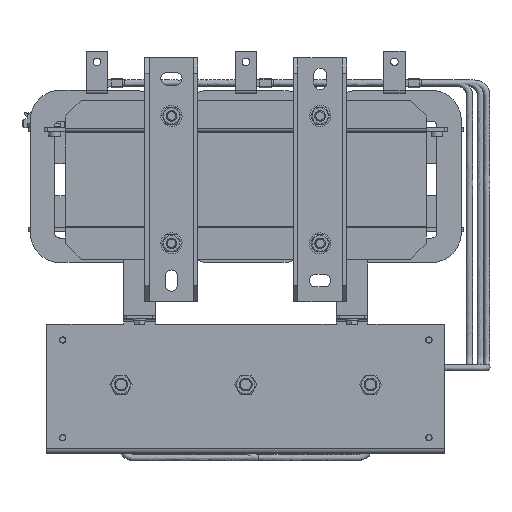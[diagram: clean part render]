
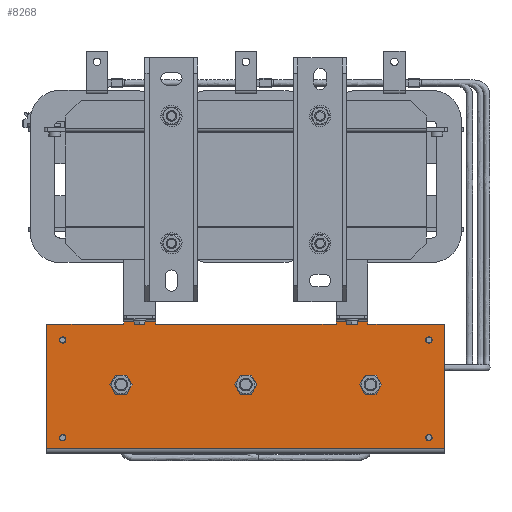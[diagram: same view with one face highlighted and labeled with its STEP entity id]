
A CAD part, front view. The second image highlights one B-rep face of the part: STEP entity #8268.
In plain terms, the highlighted planar face has unit normal (0, -1, 0).
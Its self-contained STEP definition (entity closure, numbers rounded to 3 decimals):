
#8268=ADVANCED_FACE('',(#18733,#18735,#18737,#18739,#18741,#18743,#18745),#18747,
.F.);
#18733=FACE_BOUND('',#18734,.T.);
#18734=EDGE_LOOP('',(#31617,#31618,#31619,#31620,#31621,#31622,#31623,#31624,#31625,
#31626,#31627,#31628));
#18735=FACE_BOUND('',#18736,.T.);
#18736=EDGE_LOOP('',(#31629));
#18737=FACE_BOUND('',#18738,.T.);
#18738=EDGE_LOOP('',(#31630));
#18739=FACE_BOUND('',#18740,.T.);
#18740=EDGE_LOOP('',(#31631));
#18741=FACE_BOUND('',#18742,.T.);
#18742=EDGE_LOOP('',(#31632));
#18743=FACE_BOUND('',#18744,.T.);
#18744=EDGE_LOOP('',(#31633));
#18745=FACE_BOUND('',#18746,.T.);
#18746=EDGE_LOOP('',(#31634));
#18747=PLANE('',#18748);
#18748=AXIS2_PLACEMENT_3D('',#18749,#18750,#18751);
#18749=CARTESIAN_POINT('',(-124.,-50.,187.5));
#18750=DIRECTION('',(0.,1.,0.));
#18751=DIRECTION('',(0.,0.,1.));
#31617=ORIENTED_EDGE('',*,*,#36974,.T.);
#31618=ORIENTED_EDGE('',*,*,#36975,.T.);
#31619=ORIENTED_EDGE('',*,*,#36976,.T.);
#31620=ORIENTED_EDGE('',*,*,#36977,.F.);
#31621=ORIENTED_EDGE('',*,*,#36978,.T.);
#31622=ORIENTED_EDGE('',*,*,#36979,.T.);
#31623=ORIENTED_EDGE('',*,*,#36980,.T.);
#31624=ORIENTED_EDGE('',*,*,#36981,.F.);
#31625=ORIENTED_EDGE('',*,*,#36907,.T.);
#31626=ORIENTED_EDGE('',*,*,#36982,.T.);
#31627=ORIENTED_EDGE('',*,*,#36893,.F.);
#31628=ORIENTED_EDGE('',*,*,#36983,.F.);
#31629=ORIENTED_EDGE('',*,*,#36834,.T.);
#31630=ORIENTED_EDGE('',*,*,#36836,.T.);
#31631=ORIENTED_EDGE('',*,*,#36838,.T.);
#31632=ORIENTED_EDGE('',*,*,#36840,.T.);
#31633=ORIENTED_EDGE('',*,*,#36842,.T.);
#31634=ORIENTED_EDGE('',*,*,#36844,.T.);
#36834=EDGE_CURVE('',#39871,#39871,#39872,.T.);
#36836=EDGE_CURVE('',#39875,#39875,#39876,.T.);
#36838=EDGE_CURVE('',#39879,#39879,#39880,.T.);
#36840=EDGE_CURVE('',#39883,#39883,#39884,.T.);
#36842=EDGE_CURVE('',#39887,#39887,#39888,.T.);
#36844=EDGE_CURVE('',#39891,#39891,#39892,.T.);
#36893=EDGE_CURVE('',#39983,#39984,#39985,.T.);
#36907=EDGE_CURVE('',#40012,#40010,#40013,.T.);
#36974=EDGE_CURVE('',#40130,#40131,#40132,.T.);
#36975=EDGE_CURVE('',#40131,#40133,#40134,.T.);
#36976=EDGE_CURVE('',#40133,#40135,#40136,.T.);
#36977=EDGE_CURVE('',#40137,#40135,#40138,.T.);
#36978=EDGE_CURVE('',#40137,#40139,#40140,.T.);
#36979=EDGE_CURVE('',#40139,#40141,#40142,.T.);
#36980=EDGE_CURVE('',#40141,#40143,#40144,.T.);
#36981=EDGE_CURVE('',#40012,#40143,#40145,.T.);
#36982=EDGE_CURVE('',#40010,#39984,#40146,.T.);
#36983=EDGE_CURVE('',#40130,#39983,#40147,.T.);
#39871=VERTEX_POINT('',#46268);
#39872=CIRCLE('',#46269,3.);
#39875=VERTEX_POINT('',#46278);
#39876=CIRCLE('',#46279,3.);
#39879=VERTEX_POINT('',#46288);
#39880=CIRCLE('',#46289,3.);
#39883=VERTEX_POINT('',#46298);
#39884=CIRCLE('',#46299,3.);
#39887=VERTEX_POINT('',#46308);
#39888=CIRCLE('',#46309,7.);
#39891=VERTEX_POINT('',#46318);
#39892=CIRCLE('',#46319,7.);
#39983=VERTEX_POINT('',#46529);
#39984=VERTEX_POINT('',#46530);
#39985=LINE('',#46531,#46532);
#40010=VERTEX_POINT('',#46586);
#40012=VERTEX_POINT('',#46591);
#40013=LINE('',#46592,#46593);
#40130=VERTEX_POINT('',#46857);
#40131=VERTEX_POINT('',#46858);
#40132=LINE('',#46859,#46860);
#40133=VERTEX_POINT('',#46862);
#40134=LINE('',#46863,#46864);
#40135=VERTEX_POINT('',#46866);
#40136=LINE('',#46867,#46868);
#40137=VERTEX_POINT('',#46870);
#40138=LINE('',#46871,#46872);
#40139=VERTEX_POINT('',#46874);
#40140=LINE('',#46875,#46876);
#40141=VERTEX_POINT('',#46878);
#40142=LINE('',#46879,#46880);
#40143=VERTEX_POINT('',#46882);
#40144=LINE('',#46883,#46884);
#40145=LINE('',#46886,#46887);
#40146=LINE('',#46889,#46890);
#40147=LINE('',#46892,#46893);
#46268=CARTESIAN_POINT('',(-15.,-50.,-172.5));
#46269=AXIS2_PLACEMENT_3D('',#46270,#46271,#46272);
#46270=CARTESIAN_POINT('',(-12.,-50.,-172.5));
#46271=DIRECTION('',(0.,1.,0.));
#46272=DIRECTION('',(1.,0.,0.));
#46278=CARTESIAN_POINT('',(-107.,-50.,172.5));
#46279=AXIS2_PLACEMENT_3D('',#46280,#46281,#46282);
#46280=CARTESIAN_POINT('',(-104.,-50.,172.5));
#46281=DIRECTION('',(0.,1.,0.));
#46282=DIRECTION('',(1.,0.,0.));
#46288=CARTESIAN_POINT('',(-15.,-50.,172.5));
#46289=AXIS2_PLACEMENT_3D('',#46290,#46291,#46292);
#46290=CARTESIAN_POINT('',(-12.,-50.,172.5));
#46291=DIRECTION('',(0.,1.,0.));
#46292=DIRECTION('',(1.,0.,0.));
#46298=CARTESIAN_POINT('',(-107.,-50.,-172.5));
#46299=AXIS2_PLACEMENT_3D('',#46300,#46301,#46302);
#46300=CARTESIAN_POINT('',(-104.,-50.,-172.5));
#46301=DIRECTION('',(0.,1.,0.));
#46302=DIRECTION('',(1.,0.,0.));
#46308=CARTESIAN_POINT('',(-62.,-50.,124.5));
#46309=AXIS2_PLACEMENT_3D('',#46310,#46311,#46312);
#46310=CARTESIAN_POINT('',(-62.,-50.,117.5));
#46311=DIRECTION('',(0.,1.,0.));
#46312=DIRECTION('',(0.,0.,-1.));
#46318=CARTESIAN_POINT('',(-62.,-50.,-110.5));
#46319=AXIS2_PLACEMENT_3D('',#46320,#46321,#46322);
#46320=CARTESIAN_POINT('',(-62.,-50.,-117.5));
#46321=DIRECTION('',(0.,1.,0.));
#46322=DIRECTION('',(0.,0.,-1.));
#46529=CARTESIAN_POINT('',(-119.,-50.,187.5));
#46530=CARTESIAN_POINT('',(-2.,-50.,187.5));
#46531=CARTESIAN_POINT('',(-119.,-50.,187.5));
#46532=VECTOR('',#46533,1.);
#46533=DIRECTION('',(1.,0.,0.));
#46586=CARTESIAN_POINT('',(-2.,-50.,-187.5));
#46591=CARTESIAN_POINT('',(-119.,-50.,-187.5));
#46592=CARTESIAN_POINT('',(-119.,-50.,-187.5));
#46593=VECTOR('',#46594,1.);
#46594=DIRECTION('',(1.,0.,0.));
#46857=CARTESIAN_POINT('',(-119.,-50.,115.));
#46858=CARTESIAN_POINT('',(-121.,-50.,115.));
#46859=CARTESIAN_POINT('',(-119.,-50.,115.));
#46860=VECTOR('',#46861,1.);
#46861=DIRECTION('',(-1.,0.,0.));
#46862=CARTESIAN_POINT('',(-121.,-50.,85.));
#46863=CARTESIAN_POINT('',(-121.,-50.,115.));
#46864=VECTOR('',#46865,1.);
#46865=DIRECTION('',(0.,0.,-1.));
#46866=CARTESIAN_POINT('',(-119.,-50.,85.));
#46867=CARTESIAN_POINT('',(-121.,-50.,85.));
#46868=VECTOR('',#46869,1.);
#46869=DIRECTION('',(1.,0.,0.));
#46870=CARTESIAN_POINT('',(-119.,-50.,-85.));
#46871=CARTESIAN_POINT('',(-119.,-50.,-85.));
#46872=VECTOR('',#46873,1.);
#46873=DIRECTION('',(0.,0.,1.));
#46874=CARTESIAN_POINT('',(-121.,-50.,-85.));
#46875=CARTESIAN_POINT('',(-119.,-50.,-85.));
#46876=VECTOR('',#46877,1.);
#46877=DIRECTION('',(-1.,0.,0.));
#46878=CARTESIAN_POINT('',(-121.,-50.,-115.));
#46879=CARTESIAN_POINT('',(-121.,-50.,-85.));
#46880=VECTOR('',#46881,1.);
#46881=DIRECTION('',(0.,0.,-1.));
#46882=CARTESIAN_POINT('',(-119.,-50.,-115.));
#46883=CARTESIAN_POINT('',(-121.,-50.,-115.));
#46884=VECTOR('',#46885,1.);
#46885=DIRECTION('',(1.,0.,0.));
#46886=CARTESIAN_POINT('',(-119.,-50.,-187.5));
#46887=VECTOR('',#46888,1.);
#46888=DIRECTION('',(0.,0.,1.));
#46889=CARTESIAN_POINT('',(-2.,-50.,-187.5));
#46890=VECTOR('',#46891,1.);
#46891=DIRECTION('',(0.,0.,1.));
#46892=CARTESIAN_POINT('',(-119.,-50.,115.));
#46893=VECTOR('',#46894,1.);
#46894=DIRECTION('',(0.,0.,1.));
